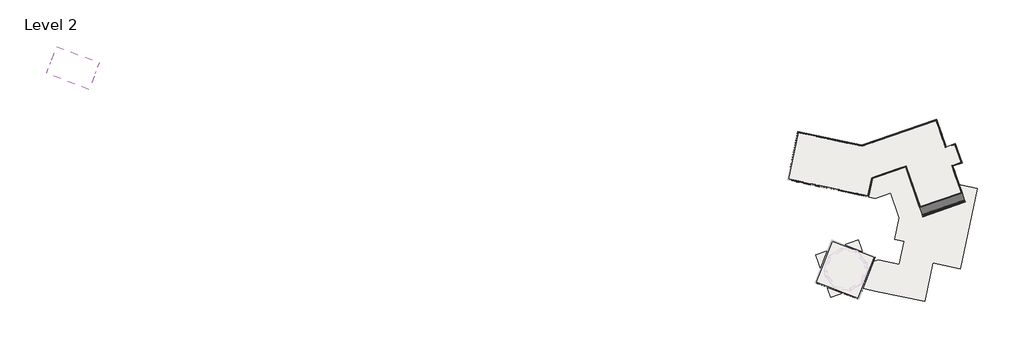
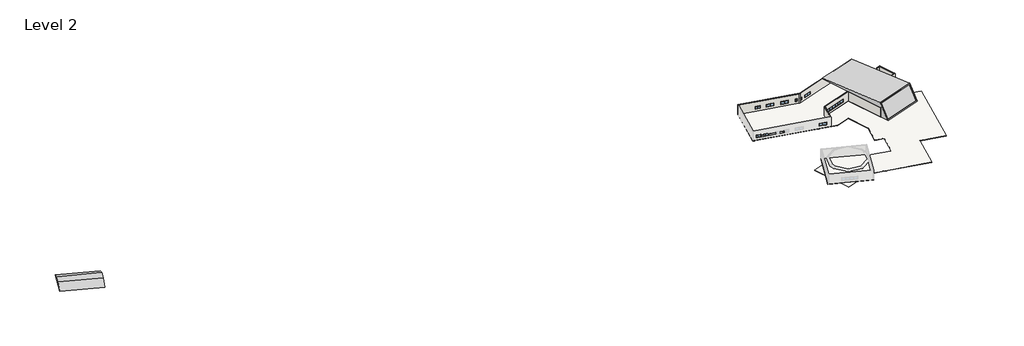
# One storey, part 2 of 2: 17 windows, 11 walls, 3 proxies, 2 slabs, 1 furniture element.
"""IFC4 building model written with IfcOpenShell, lengths in millimetres."""

import ifcopenshell
import ifcopenshell.guid

model = None  # the IFC model being written
_history = None  # IfcOwnerHistory: only IFC2X3 demands one
_inside = {}  # id of a spatial element -> (the spatial element, [elements in it])
_under = {}  # id of a project, library or spatial element -> (it, [spatial elements below it])
_declared = {}  # id of a project -> (the project, [libraries it declares])
_typed = {}  # id of a type object -> (the type object, [elements of that type])
_made_of = {}  # id of a material, layer set ... -> (it, [elements and type objects made of it])


def new_model(schema):
    """Start an empty IFC model of exactly this schema.

    Asked for "IFC4X3", IfcOpenShell would pick the latest addendum, in which some entities
    have other attributes; the version numbers below select the first issue.
    IFC2X3 requires an IfcOwnerHistory on every rooted entity: one is made here for all.
    """
    global model, _history
    if schema == "IFC4X3":
        model = ifcopenshell.file(schema_version=(4, 3, 0, 0))
    else:
        model = ifcopenshell.file(schema=schema)
    _inside.clear()
    _under.clear()
    _declared.clear()
    _typed.clear()
    _made_of.clear()
    _history = None
    if model.schema == "IFC2X3":
        org = make("IfcOrganization", Name="unknown")
        user = make(
            "IfcPersonAndOrganization",
            ThePerson=make("IfcPerson", FamilyName="unknown"),
            TheOrganization=org,
        )
        app = make(
            "IfcApplication",
            ApplicationDeveloper=org,
            Version="unknown",
            ApplicationFullName="unknown",
            ApplicationIdentifier="unknown",
        )
        _history = make(
            "IfcOwnerHistory",
            OwningUser=user,
            OwningApplication=app,
            ChangeAction="ADDED",
            CreationDate=0,
        )
    return model


def make(cls, **values):
    """One entity of the class cls with the attributes given. An attribute that is None is left unset."""
    return model.create_entity(
        cls, **{name: value for name, value in values.items() if value is not None}
    )


def rooted(cls, **values):
    """An entity with a GlobalId (a new one), such as an element, a storey or a relation."""
    return make(cls, GlobalId=ifcopenshell.guid.new(), OwnerHistory=_history, **values)


def si_unit(unit_type, name, prefix=None):
    """IfcSIUnit, for example si_unit("LENGTHUNIT", "METRE", prefix="MILLI")."""
    return make("IfcSIUnit", UnitType=unit_type, Prefix=prefix, Name=name)


def assignment(units):
    """IfcUnitAssignment: the units of a project."""
    return None if units is None else make("IfcUnitAssignment", Units=units)


def point(xyz):
    """IfcCartesianPoint."""
    return None if xyz is None else make("IfcCartesianPoint", Coordinates=xyz)


def direction(xyz):
    """IfcDirection."""
    return None if xyz is None else make("IfcDirection", DirectionRatios=xyz)


def frame(location, z_axis=None, x_axis=None):
    """IfcAxis2Placement3D, a coordinate frame: its origin and axes. An axis left out is left unset."""
    return make(
        "IfcAxis2Placement3D",
        Location=point(location),
        Axis=direction(z_axis),
        RefDirection=direction(x_axis),
    )


def origin():
    """The frame at (0, 0, 0) with its axes left unset."""
    return frame((0.0, 0.0, 0.0))


def place(relative_to, where):
    """IfcLocalPlacement: puts the frame where relative to a parent placement (None: the world)."""
    return make(
        "IfcLocalPlacement", PlacementRelTo=relative_to, RelativePlacement=where
    )


def context(
    kind, dimensions, precision=None, world=None, true_north=None, identifier=None
):
    """IfcGeometricRepresentationContext, for example the 3D "Model" context."""
    return make(
        "IfcGeometricRepresentationContext",
        ContextIdentifier=identifier,
        ContextType=kind,
        CoordinateSpaceDimension=dimensions,
        Precision=precision,
        WorldCoordinateSystem=world,
        TrueNorth=true_north,
    )


def project(units=None, contexts=None):
    """IfcProject with its units and contexts."""
    return rooted(
        "IfcProject",
        Name="project",
        RepresentationContexts=contexts,
        UnitsInContext=assignment(units),
    )


def spatial(cls, under=None, at=None, **own):
    """A site, building, storey or space (cls), placed at a placement, below another one or the project."""
    s = rooted(cls, ObjectPlacement=at, **own)
    if under is not None:
        _under.setdefault(under.id(), (under, []))[1].append(s)
    return s


def polyline(points):
    """IfcPolyline through the points."""
    return make("IfcPolyline", Points=[point(p) for p in points])


def outline(outer, holes=None, kind="AREA"):
    """IfcArbitraryClosedProfileDef: a profile drawn as a closed curve; with holes, ...WithVoids."""
    if holes is None:
        return make("IfcArbitraryClosedProfileDef", ProfileType=kind, OuterCurve=outer)
    return make(
        "IfcArbitraryProfileDefWithVoids",
        ProfileType=kind,
        OuterCurve=outer,
        InnerCurves=holes,
    )


def extrude(swept, where, along, depth):
    """IfcExtrudedAreaSolid: the profile swept, set in the frame where, extruded along a direction by depth."""
    return make(
        "IfcExtrudedAreaSolid",
        SweptArea=swept,
        Position=where,
        ExtrudedDirection=direction(along),
        Depth=depth,
    )


def faces_of(points, faces, orient=None, outer=None):
    """IfcFace entities. A face is a list of loops; a loop is a list of indices into points, from 0.

    orient and outer hold one flag for each loop. By default every Orientation is true, the
    first loop of a face is its IfcFaceOuterBound and the others are IfcFaceBound.
    """
    made = []
    for i, loops in enumerate(faces):
        bounds = []
        for j, loop in enumerate(loops):
            is_outer = j == 0 if outer is None else outer[i][j]
            bounds.append(
                make(
                    "IfcFaceOuterBound" if is_outer else "IfcFaceBound",
                    Bound=make("IfcPolyLoop", Polygon=[points[k] for k in loop]),
                    Orientation=True if orient is None else orient[i][j],
                )
            )
        made.append(make("IfcFace", Bounds=bounds))
    return made


def faceted_brep(points, faces, orient=None, outer=None, voids=None):
    """IfcFacetedBrep: a solid bounded by flat faces; with voids (closed shells), ...WithVoids."""
    shared = [point(p) for p in points]
    hull = make("IfcClosedShell", CfsFaces=faces_of(shared, faces, orient, outer))
    if voids is None:
        return make("IfcFacetedBrep", Outer=hull)
    return make(
        "IfcFacetedBrepWithVoids",
        Outer=hull,
        Voids=[
            make(cls, CfsFaces=faces_of(shared, fs, o, b)) for cls, fs, o, b in voids
        ],
    )


def shape(context_of_items, identifier, shape_type, items):
    """IfcShapeRepresentation: the items that make up one representation, for example the "Body"."""
    return make(
        "IfcShapeRepresentation",
        ContextOfItems=context_of_items,
        RepresentationIdentifier=identifier,
        RepresentationType=shape_type,
        Items=items,
    )


def source(mapping_origin, context_of_items, identifier, shape_type, items):
    """IfcRepresentationMap: a shape defined once, which mapped items show again and again."""
    return make(
        "IfcRepresentationMap",
        MappingOrigin=mapping_origin,
        MappedRepresentation=shape(context_of_items, identifier, shape_type, items),
    )


def transform(
    local_origin,
    x_axis=None,
    y_axis=None,
    z_axis=None,
    scale=None,
    scale2=None,
    scale3=None,
    uniform=True,
):
    """IfcCartesianTransformationOperator3D, or its non-uniform kind. x_axis, y_axis, z_axis: its Axis1, 2, 3."""
    if uniform:
        return make(
            "IfcCartesianTransformationOperator3D",
            Axis1=direction(x_axis),
            Axis2=direction(y_axis),
            LocalOrigin=point(local_origin),
            Scale=scale,
            Axis3=direction(z_axis),
        )
    return make(
        "IfcCartesianTransformationOperator3DnonUniform",
        Axis1=direction(x_axis),
        Axis2=direction(y_axis),
        LocalOrigin=point(local_origin),
        Scale=scale,
        Axis3=direction(z_axis),
        Scale2=scale2,
        Scale3=scale3,
    )


def mapped(mapping_source, mapping_target):
    """IfcMappedItem: shows the shape of a source again, moved by a transform."""
    return make(
        "IfcMappedItem", MappingSource=mapping_source, MappingTarget=mapping_target
    )


def made_of(thing, what):
    """Note that an element or type object is made of a material, layer set ...; save() writes the relation."""
    if what is not None:
        _made_of.setdefault(what.id(), (what, []))[1].append(thing)
    return thing


def element(
    cls,
    number,
    at=None,
    inside=None,
    cuts=None,
    type_object=None,
    material=None,
    context=None,
    identifier="Body",
    shape_type=None,
    held_by="IfcProductDefinitionShape",
    body=None,
    shapes=None,
    **own,
):
    """One element of the class cls, such as IfcWall. Its Tag is "e" and its number.

    at: its placement. inside: the storey or other place that contains it. cuts: it is an
    opening in that element (IfcRelVoidsElement). A single representation is given by context,
    identifier, shape_type and body (its items); several are given by shapes. held_by: the class
    of the entity that holds the representations. save() writes the other relations.
    """
    e = rooted(cls, Tag="e%d" % number, ObjectPlacement=at, **own)
    if body is not None:
        shapes = [shape(context, identifier, shape_type, body)]
    if shapes is not None:
        e.Representation = make(held_by, Representations=shapes)
    if inside is not None:
        _inside.setdefault(inside.id(), (inside, []))[1].append(e)
    if cuts is not None:
        rooted(
            "IfcRelVoidsElement", RelatingBuildingElement=cuts, RelatedOpeningElement=e
        )
    if type_object is not None:
        _typed.setdefault(type_object.id(), (type_object, []))[1].append(e)
    return made_of(e, material)


def aggregate(whole, parts):
    """IfcRelAggregates: a whole, such as a stair, and the parts it consists of."""
    return rooted("IfcRelAggregates", RelatingObject=whole, RelatedObjects=parts)


def save(model, path):
    """Write the relations noted so far, then the file.

    IfcRelAggregates (storeys below a building ...), IfcRelContainedInSpatialStructure (elements
    in a storey), IfcRelDefinesByType, IfcRelAssociatesMaterial and IfcRelDeclares: one each for
    every whole, place, type object, material and project.
    """
    for whole, parts in _under.values():
        aggregate(whole, parts)
    for where, things in _inside.values():
        rooted(
            "IfcRelContainedInSpatialStructure",
            RelatedElements=things,
            RelatingStructure=where,
        )
    for kind, things in _typed.values():
        rooted("IfcRelDefinesByType", RelatedObjects=things, RelatingType=kind)
    for what, things in _made_of.values():
        rooted("IfcRelAssociatesMaterial", RelatedObjects=things, RelatingMaterial=what)
    for by, libraries in _declared.values():
        rooted("IfcRelDeclares", RelatingContext=by, RelatedDefinitions=libraries)
    model.write(path)


def generic_models_17_generic_models_17_c1b150cb(model_context):
    return source(origin(), model_context, "Body", "SweptSolid", [
        extrude(outline(polyline([(0.0, 0.0), (12364.8102213, -25351.6178972), (12237.7943953, -25424.9505185), (-1980.980723, -797.3095922), (-5618.2874188, -2897.3095922), (-7291.0498918, -1e-07), (0.0, 0.0)])), frame((493903.9346162, 7538.6153477, 10364.2344266), z_axis=(0.9452094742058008, 0.32646446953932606, 0.0), x_axis=(-0.16323223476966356, 0.47260473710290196, 0.8660254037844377)), (0.0, 0.0, 1.0), 16386.8897791),
    ])


def generic_models_21_generic_models_21_878e7001(model_context):
    return source(origin(), model_context, "Body", "SweptSolid", [
        extrude(outline(polyline([(457394.4949864, 14867.6828092), (455927.2735853, 15179.5503454), (455951.4809881, 15293.4372216), (457418.7023892, 14981.5696854), (457394.4949864, 14867.6828092)])), frame((0.0, 0.0, 5241.1911697), z_axis=(0.0, 0.0, 1.0), x_axis=(1.0, 0.0, 0.0)), (0.0, 0.0, 1.0), 700.0),
        extrude(outline(polyline([(449708.6023988, 16501.369711), (448708.8903539, 16713.8650659), (448733.0977567, 16827.7519421), (449732.8098017, 16615.2565871), (449708.6023988, 16501.369711)])), frame((0.0, 0.0, 5241.1911697), z_axis=(0.0, 0.0, 1.0), x_axis=(1.0, 0.0, 0.0)), (0.0, 0.0, 1.0), 700.0),
        extrude(outline(polyline([(454138.437253, 15559.7792456), (451497.4387311, 16121.1408108), (451521.6461339, 16235.027687), (454162.6446559, 15673.6661218), (454138.437253, 15559.7792456)])), frame((0.0, 0.0, 5241.1911697), z_axis=(0.0, 0.0, 1.0), x_axis=(1.0, 0.0, 0.0)), (0.0, 0.0, 1.0), 700.0),
    ])


def generic_models_22_generic_models_22_ceb32bb1(model_context):
    return source(origin(), model_context, "Body", "SweptSolid", [
        extrude(outline(polyline([(-12364.8102213, -1e-07), (-12364.8102213, -16386.8897792), (-19655.8601132, -16386.8897791), (-19655.8601131, 0.0), (-12364.8102213, -1e-07)]), holes=[polyline([(-12764.8102213, -15986.8897792), (-12764.8102213, -400.0000001), (-19255.8601131, -400.0000001), (-19255.8601131, -15986.8897792), (-12764.8102213, -15986.8897792)])]), frame((491885.5990112, 13382.2832317, 21072.4741912), z_axis=(0.28272652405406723, -0.8185754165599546, 0.5000000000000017), x_axis=(-0.16323223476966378, 0.47260473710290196, 0.8660254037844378)), (0.0, 0.0, 1.0), 250.0),
    ])


def furniture_2_furniture_1_e683d8f9(model_context):
    return source(origin(), model_context, "Body", "SweptSolid", [
        extrude(outline(polyline([(1042.1492263, 0.0), (4452.8032056, 0.0), (8022.8990941, -1741.2521091), (-2527.9466623, -1741.2521091), (1042.1492263, 0.0)])), frame((465856.9883716, -24025.7203411, 9620.8401372), z_axis=(0.35491188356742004, 0.9348997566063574, 0.0), x_axis=(-0.9348997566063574, 0.35491188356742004, 0.0)), (0.0, 0.0, 1.0), 16606.4305029),
    ])


def aluminum_exterior_window_2_wide_3886_1d34d12d(model_context):
    return source(origin(), model_context, "Body", "SweptSolid", [
        extrude(outline(polyline([(153.8, 106.7075246), (1577.6, 106.7075246), (1577.6, 81.3075246), (153.8, 81.3075246), (153.8, 106.7075246)])), frame((0.0, 0.0, 1066.8), z_axis=(0.0, 0.0, 1.0), x_axis=(1.0, 0.0, 0.0)), (0.0, 0.0, 1.0), 1117.6),
        extrude(outline(polyline([(-1320.8, 106.7075246), (103.0, 106.7075246), (103.0, 81.3075246), (-1320.8, 81.3075246), (-1320.8, 106.7075246)])), frame((0.0, 0.0, 1066.8), z_axis=(0.0, 0.0, 1.0), x_axis=(1.0, 0.0, 0.0)), (0.0, 0.0, 1.0), 1117.6),
        extrude(outline(polyline([(2235.2, -1371.6), (1016.0, -1371.6), (1016.0, 1628.4), (2235.2, 1628.4), (2235.2, -1371.6)]), holes=[polyline([(2184.4, 153.8), (2184.4, 1577.6), (1066.8, 1577.6), (1066.8, 153.8), (2184.4, 153.8)]), polyline([(2184.4, -1320.8), (2184.4, 103.0), (1066.8, 103.0), (1066.8, -1320.8), (2184.4, -1320.8)])]), frame((0.0, 36.8575246, 0.0), z_axis=(0.0, 1.0, 0.0), x_axis=(0.0, 0.0, 1.0)), (0.0, 0.0, 1.0), 114.3),
    ])


def aluminum_exterior_window_2_wide_3886_5f28be50(model_context):
    return source(origin(), model_context, "Body", "SweptSolid", [
        extrude(outline(polyline([(-431.8, 106.7075246), (406.4, 106.7075246), (406.4, 81.3075246), (-431.8, 81.3075246), (-431.8, 106.7075246)])), frame((0.0, 0.0, 1066.8), z_axis=(0.0, 0.0, 1.0), x_axis=(1.0, 0.0, 0.0)), (0.0, 0.0, 1.0), 1117.6),
        extrude(outline(polyline([(-1320.8, 106.7075246), (-482.6, 106.7075246), (-482.6, 81.3075246), (-1320.8, 81.3075246), (-1320.8, 106.7075246)])), frame((0.0, 0.0, 1066.8), z_axis=(0.0, 0.0, 1.0), x_axis=(1.0, 0.0, 0.0)), (0.0, 0.0, 1.0), 1117.6),
        extrude(outline(polyline([(2235.2, -1371.6), (1016.0, -1371.6), (1016.0, 457.2), (2235.2, 457.2), (2235.2, -1371.6)]), holes=[polyline([(2184.4, -431.8), (2184.4, 406.4), (1066.8, 406.4), (1066.8, -431.8), (2184.4, -431.8)]), polyline([(2184.4, -1320.8), (2184.4, -482.6), (1066.8, -482.6), (1066.8, -1320.8), (2184.4, -1320.8)])]), frame((0.0, 36.8575246, 0.0), z_axis=(0.0, 1.0, 0.0), x_axis=(0.0, 0.0, 1.0)), (0.0, 0.0, 1.0), 114.3),
    ])


def aluminum_exterior_window_2_wide_3886_f8047025(model_context):
    return source(origin(), model_context, "Body", "SweptSolid", [
        extrude(outline(polyline([(-996.2, 106.7075246), (-722.4, 106.7075246), (-722.4, 81.3075246), (-996.2, 81.3075246), (-996.2, 106.7075246)])), frame((0.0, 0.0, 1066.8), z_axis=(0.0, 0.0, 1.0), x_axis=(1.0, 0.0, 0.0)), (0.0, 0.0, 1.0), 1117.6),
        extrude(outline(polyline([(-1320.8, 106.7075246), (-1047.0, 106.7075246), (-1047.0, 81.3075246), (-1320.8, 81.3075246), (-1320.8, 106.7075246)])), frame((0.0, 0.0, 1066.8), z_axis=(0.0, 0.0, 1.0), x_axis=(1.0, 0.0, 0.0)), (0.0, 0.0, 1.0), 1117.6),
        extrude(outline(polyline([(2235.2, -1371.6), (1016.0, -1371.6), (1016.0, -671.6), (2235.2, -671.6), (2235.2, -1371.6)]), holes=[polyline([(2184.4, -996.2), (2184.4, -722.4), (1066.8, -722.4), (1066.8, -996.2), (2184.4, -996.2)]), polyline([(2184.4, -1320.8), (2184.4, -1047.0), (1066.8, -1047.0), (1066.8, -1320.8), (2184.4, -1320.8)])]), frame((0.0, 36.8575246, 0.0), z_axis=(0.0, 1.0, 0.0), x_axis=(0.0, 0.0, 1.0)), (0.0, 0.0, 1.0), 114.3),
    ])


model = new_model("IFC4")

# Units and contexts
model_context = context("Model", 3, world=origin())
ifc_project = project(units=[si_unit("LENGTHUNIT", "METRE", prefix="MILLI")], contexts=[model_context])

# Site, building, storey
site = spatial("IfcSite", under=ifc_project)
building = spatial("IfcBuilding", under=site)
storey = spatial("IfcBuildingStorey", under=building, Name="Level 2", Elevation=4050.0)

# Proxies
placement = place(None, origin())
generic_models_17_generic_models_17_shape = generic_models_17_generic_models_17_c1b150cb(model_context)
element("IfcBuildingElementProxy", 1, Name="Generic Models 17 : Generic Models 17", ObjectType="Generic Models 17 : Generic Models 17", at=placement, inside=storey, context=model_context, shape_type="MappedRepresentation", body=[
    mapped(generic_models_17_generic_models_17_shape, transform((0.0, 0.0, 0.0), x_axis=(1.0, 0.0, 0.0), y_axis=(0.0, 1.0, 0.0), z_axis=(0.0, 0.0, 1.0))),
])
generic_models_21_generic_models_21_shape = generic_models_21_generic_models_21_878e7001(model_context)
element("IfcBuildingElementProxy", 2, Name="Generic Models 21 : Generic Models 21", ObjectType="Generic Models 21 : Generic Models 21", at=placement, inside=storey, context=model_context, shape_type="MappedRepresentation", body=[
    mapped(generic_models_21_generic_models_21_shape, transform((0.0, 0.0, 0.0), x_axis=(1.0, 0.0, 0.0), y_axis=(0.0, 1.0, 0.0), z_axis=(0.0, 0.0, 1.0))),
])
generic_models_22_generic_models_22_shape = generic_models_22_generic_models_22_ceb32bb1(model_context)
element("IfcBuildingElementProxy", 3, Name="Generic Models 22 : Generic Models 22", ObjectType="Generic Models 22 : Generic Models 22", at=placement, inside=storey, context=model_context, shape_type="MappedRepresentation", body=[
    mapped(generic_models_22_generic_models_22_shape, transform((0.0, 0.0, 0.0), x_axis=(1.0, 0.0, 0.0), y_axis=(0.0, 1.0, 0.0), z_axis=(0.0, 0.0, 1.0))),
])

# Furniture
furniture_2_furniture_1_shape = furniture_2_furniture_1_e683d8f9(model_context)
element("IfcFurniture", 4, ObjectType="Furniture 2 : Furniture 1", at=placement, inside=storey, context=model_context, shape_type="MappedRepresentation", body=[
    mapped(furniture_2_furniture_1_shape, transform((199184.1500402, 524685.7657192, 0.0), x_axis=(0.0, -1.0, 0.0), y_axis=(1.0, 0.0, 0.0), z_axis=(0.0, 0.0, 1.0))),
])

# Slabs
element("IfcSlab", 5, ObjectType="Generic 150mm", at=placement, inside=storey, context=model_context, shape_type="SweptSolid", body=[
    extrude(outline(polyline([(496194.9910677, 38206.747973), (503336.7536813, 17804.1142221), (505534.6529907, 16248.6559358), (515110.2132954, 14213.3077614), (508872.8625709, -15131.1202607), (498749.0349033, -12979.2342607), (495729.3323996, -27185.8175811), (477933.5726812, -23403.212083), (477933.8658406, -23402.486488), (471628.0595421, -22062.1459826), (461371.3126496, -25604.7082662), (455989.830963, -10023.7555132), (471522.9002228, -4658.8122338), (474530.366054, -13366.299456), (478874.7788643, -11865.7892916), (486494.6851509, -13485.4503721), (488251.0783713, -5222.2699432), (484762.4328024, -4480.7354362), (486449.9905894, 3458.5997401), (483279.883946, 12636.9793593), (477629.912649, 10685.5443254), (470024.8423404, 12302.0519214), (470544.6215674, 14747.4209232), (460186.6997171, 16949.0651778), (459666.92049, 14503.696176), (445583.1164203, 17497.3011443), (449326.0390852, 35106.3678112), (472782.8584723, 30120.4669346), (496194.9910677, 38206.747973)])), frame((0.0, 0.0, 3900.0), z_axis=(0.0, 0.0, 1.0), x_axis=(1.0, 0.0, 0.0)), (0.0, 0.0, 1.0), 150.0),
])
element("IfcSlab", 6, ObjectType="Generic 150mm", at=placement, inside=storey, context=model_context, shape_type="SweptSolid", body=[
    extrude(outline(polyline([(503641.3046621, 29541.1180028), (507043.8413761, 30716.3150081), (509503.3066745, 23612.4712386), (506095.517135, 22435.4599679), (509490.917429, 12604.7897846), (493979.6883487, 7247.3898518), (488826.0824548, 22159.1794744), (476612.6911512, 17940.8147393), (475181.1706944, 11206.0404956), (445583.1164203, 17497.3011443), (449326.0390852, 35106.3678112), (472782.8584723, 30120.4669346), (500173.666852, 39580.9367796), (503641.3046621, 29541.1180028)])), frame((0.0, 0.0, 3900.0), z_axis=(0.0, 0.0, 1.0), x_axis=(1.0, 0.0, 0.0)), (0.0, 0.0, 1.0), 150.0),
    extrude(outline(polyline([(477672.6234578, -10748.4453058), (471616.3744343, -26311.9729939), (455680.6882376, -20262.378517), (461687.6475622, -4680.1391973), (477672.6234578, -10748.4453058)])), frame((0.0, 0.0, 3900.0), z_axis=(0.0, 0.0, 1.0), x_axis=(1.0, 0.0, 0.0)), (0.0, 0.0, 1.0), 150.0),
])

# Walls
element("IfcWall", 7, ObjectType="0.3", at=placement, inside=storey, context=model_context, shape_type="Brep", body=[
    faceted_brep([(509392.9780882, 12888.3526269, 4050.0), (509109.4152459, 12790.413286, 4050.0), (494165.2567212, 7628.872994, 4050.0), (493881.6938736, 7530.9336513, 4050.0), (493881.6938736, 7530.9336513, 8250.0), (494023.4752974, 7579.9033227, 8250.0), (494165.2567212, 7628.872994, 8250.0), (509109.4152459, 12790.413286, 8250.0), (509251.1966671, 12839.3829564, 8250.0), (509392.9780882, 12888.3526269, 8250.0), (509490.917429, 12604.7897846, 4050.0), (509490.917429, 12604.7897846, 8250.0), (509349.1360079, 12555.8201142, 8250.0), (494121.4697725, 7296.3595231, 8250.0), (493979.6883487, 7247.3898518, 8250.0), (493979.6883487, 7247.3898518, 4050.0), (509441.9477586, 12746.5712057, 8250.0), (493930.6911111, 7389.1617515, 8250.0), (509300.1663375, 12697.6015353, 8250.0), (494072.4725349, 7438.1314229, 8250.0)], [[[0, 1, 2, 3, 4, 5, 6, 7, 8, 9]], [[10, 11, 12, 13, 14, 15]], [[3, 2, 1, 0, 10, 15]], [[0, 9, 16, 11, 10]], [[4, 3, 15, 14, 17]], [[9, 8, 18, 16]], [[18, 12, 11, 16]], [[5, 4, 17, 19]], [[13, 12, 18, 19]], [[17, 14, 13, 19]], [[8, 7, 6, 5, 19, 18]]]),
])
element("IfcWall", 8, ObjectType="0.3", at=placement, inside=storey, context=model_context, shape_type="Brep", body=[
    faceted_brep([(505714.0149519, 22621.0834693, 4050.0), (509109.4152459, 12790.413286, 4050.0), (509109.4152459, 12790.413286, 8250.0), (505762.9846223, 22479.3020482, 8250.0), (505714.0149519, 22621.0834693, 8250.0), (505844.6007397, 22242.9996797, 6285.2), (506441.6389616, 20514.4005932, 6285.2), (506441.6389616, 20514.4005932, 5066.0), (505844.6007397, 22242.9996797, 5066.0), (507029.2750068, 18813.0235397, 6285.2), (507626.3132287, 17084.4244532, 6285.2), (507626.3132287, 17084.4244532, 5066.0), (507029.2750068, 18813.0235397, 5066.0), (505997.5777942, 22719.0228102, 4050.0), (505997.5777942, 22719.0228102, 8250.0), (506046.5474646, 22577.2413891, 8250.0), (506095.517135, 22435.4599679, 8250.0), (509392.9780882, 12888.3526269, 8250.0), (509392.9780882, 12888.3526269, 4050.0), (506095.517135, 22435.4599679, 4050.0), (506128.163582, 22340.9390205, 6285.2), (506128.163582, 22340.9390205, 5066.0), (506725.2018039, 20612.3399341, 5066.0), (506725.2018039, 20612.3399341, 6285.2), (507312.8378491, 18910.9628805, 6285.2), (507312.8378491, 18910.9628805, 5066.0), (507909.8760709, 17182.3637941, 5066.0), (507909.8760709, 17182.3637941, 6285.2), (509251.1966671, 12839.3829564, 8250.0), (505904.7660435, 22528.2717186, 8250.0)], [[[0, 1, 2, 3, 4], [5, 6, 7, 8], [9, 10, 11, 12]], [[13, 14, 15, 16, 17, 18, 19], [20, 21, 22, 23], [24, 25, 26, 27]], [[1, 0, 13, 19, 18]], [[2, 1, 18, 17, 28]], [[0, 4, 14, 13]], [[28, 17, 16, 15, 29]], [[15, 14, 4, 3, 2, 28, 29]], [[21, 20, 5, 8]], [[22, 21, 8, 7]], [[23, 22, 7, 6]], [[20, 23, 6, 5]], [[25, 24, 9, 12]], [[26, 25, 12, 11]], [[27, 26, 11, 10]], [[24, 27, 10, 9]]]),
])
element("IfcWall", 9, ObjectType="0.3", at=placement, inside=storey, context=model_context, shape_type="Brep", body=[
    faceted_brep([(505676.8108045, 29926.7684253, 4050.0), (506858.4274198, 30334.8851994, 4050.0), (507141.9903395, 30432.824567, 4050.0), (507141.9903395, 30432.824567, 8250.0), (507000.2088797, 30383.8548832, 8250.0), (506858.4274198, 30334.8851994, 8250.0), (505676.8108045, 29926.7684253, 8250.0), (505578.8714636, 30210.3312675, 4050.0), (505578.8714636, 30210.3312675, 8250.0), (506902.0599163, 30667.3453243, 8250.0), (507043.8413761, 30716.3150081, 8250.0), (507043.8413761, 30716.3150081, 4050.0), (505627.8411341, 30068.5498464, 8250.0), (507092.9158578, 30574.5697876, 8250.0), (506951.134398, 30525.6001037, 8250.0)], [[[0, 1, 2, 3, 4, 5, 6]], [[7, 8, 9, 10, 11]], [[2, 1, 0, 7, 11]], [[0, 6, 12, 8, 7]], [[3, 2, 11, 10, 13]], [[4, 3, 13, 14]], [[9, 8, 12, 14]], [[13, 10, 9, 14]], [[6, 5, 4, 14, 12]]]),
])
element("IfcWall", 10, ObjectType="0.3", at=placement, inside=storey, context=model_context, shape_type="Brep", body=[
    faceted_brep([(499890.1040098, 39482.9974388, 4050.0), (499988.0433506, 39199.4345965, 4050.0), (503406.7114903, 29301.3972408, 4050.0), (503406.7114903, 29301.3972408, 8250.0), (499988.0433506, 39199.4345965, 8250.0), (499939.0736802, 39341.2160176, 8250.0), (499890.1040098, 39482.9974388, 8250.0), (501683.3708485, 34290.9690133, 6285.2), (502280.4090704, 32562.3699268, 6285.2), (502280.4090704, 32562.3699268, 5066.0), (501683.3708485, 34290.9690133, 5066.0), (500281.8613732, 38348.7460697, 6285.2), (500878.8995951, 36620.1469833, 6285.2), (500878.8995951, 36620.1469833, 5066.0), (500281.8613732, 38348.7460697, 5066.0), (502695.4107041, 31360.8196432, 6285.2), (503292.448926, 29632.2205568, 6285.2), (503292.448926, 29632.2205568, 5066.0), (502695.4107041, 31360.8196432, 5066.0), (500173.666852, 39580.9367796, 4050.0), (500173.666852, 39580.9367796, 8250.0), (500222.6365225, 39439.1553585, 8250.0), (503690.2743326, 29399.3365817, 8250.0), (503690.2743326, 29399.3365817, 4050.0), (501966.9336908, 34388.9083541, 6285.2), (501966.9336908, 34388.9083541, 5066.0), (502563.9719127, 32660.3092677, 5066.0), (502563.9719127, 32660.3092677, 6285.2), (500565.4242155, 38446.6854106, 6285.2), (500565.4242155, 38446.6854106, 5066.0), (501162.4624374, 36718.0863241, 5066.0), (501162.4624374, 36718.0863241, 6285.2), (502978.9735463, 31458.7589841, 6285.2), (502978.9735463, 31458.7589841, 5066.0), (503576.0117682, 29730.1598977, 5066.0), (503576.0117682, 29730.1598977, 6285.2), (503548.4929114, 29350.3669113, 8250.0), (500031.8854309, 39531.9671092, 8250.0), (500080.8551013, 39390.1856881, 8250.0)], [[[0, 1, 2, 3, 4, 5, 6], [7, 8, 9, 10], [11, 12, 13, 14], [15, 16, 17, 18]], [[19, 20, 21, 22, 23], [24, 25, 26, 27], [28, 29, 30, 31], [32, 33, 34, 35]], [[2, 1, 0, 19, 23]], [[3, 2, 23, 22, 36]], [[0, 6, 37, 20, 19]], [[6, 5, 38, 37]], [[36, 22, 21, 38]], [[21, 20, 37, 38]], [[5, 4, 3, 36, 38]], [[25, 24, 7, 10]], [[26, 25, 10, 9]], [[27, 26, 9, 8]], [[24, 27, 8, 7]], [[29, 28, 11, 14]], [[30, 29, 14, 13]], [[31, 30, 13, 12]], [[28, 31, 12, 11]], [[33, 32, 15, 18]], [[34, 33, 18, 17]], [[35, 34, 17, 16]], [[32, 35, 16, 15]]]),
])
element("IfcWall", 11, ObjectType="0.3", at=placement, inside=storey, context=model_context, shape_type="Brep", body=[
    faceted_brep([(472802.0140944, 29809.693103, 4050.0), (499988.0433506, 39199.4345965, 4050.0), (499988.0433506, 39199.4345965, 8250.0), (473076.8639022, 29904.6230621, 8250.0), (472802.0140944, 29809.693103, 8250.0), (475318.0760739, 30678.7119415, 6285.2), (478153.7044965, 31658.1053501, 6285.2), (478153.7044965, 31658.1053501, 5066.0), (475318.0760739, 30678.7119415, 5066.0), (472955.0523883, 29862.5507677, 6285.2), (473616.6990203, 30091.0758963, 6285.2), (473616.6990203, 30091.0758963, 5066.0), (472955.0523883, 29862.5507677, 5066.0), (472233.1588566, 29930.6070164, 4050.0), (472233.1588566, 29930.6070164, 8250.0), (472508.0086644, 30025.5369755, 8250.0), (472782.8584723, 30120.4669346, 8250.0), (499890.1040098, 39482.9974388, 8250.0), (499890.1040098, 39482.9974388, 4050.0), (472782.8584723, 30120.4669346, 4050.0), (475220.136733, 30962.2747838, 6285.2), (475220.136733, 30962.2747838, 5066.0), (478055.7651556, 31941.6681924, 5066.0), (478055.7651556, 31941.6681924, 6285.2), (472857.1130475, 30146.1136099, 6285.2), (472857.1130475, 30146.1136099, 5066.0), (473518.7596794, 30374.6387386, 5066.0), (473518.7596794, 30374.6387386, 6285.2), (499939.0736802, 39341.2160176, 8250.0), (472792.4362833, 29965.0800188, 8250.0)], [[[0, 1, 2, 3, 4], [5, 6, 7, 8], [9, 10, 11, 12]], [[13, 14, 15, 16, 17, 18, 19], [20, 21, 22, 23], [24, 25, 26, 27]], [[1, 0, 13, 19, 18]], [[2, 1, 18, 17, 28]], [[0, 4, 14, 13]], [[28, 17, 16, 15, 29]], [[15, 14, 4, 3, 2, 28, 29]], [[21, 20, 5, 8]], [[22, 21, 8, 7]], [[23, 22, 7, 6]], [[20, 23, 6, 5]], [[25, 24, 9, 12]], [[26, 25, 12, 11]], [[27, 26, 11, 10]], [[24, 27, 10, 9]]]),
])
element("IfcWall", 12, ObjectType="0.3", at=placement, inside=storey, context=model_context, shape_type="Brep", body=[
    faceted_brep([(449263.665578, 34812.923531, 4050.0), (449557.1098582, 34750.5500237, 4050.0), (472233.1588566, 29930.6070164, 4050.0), (472233.1588566, 29930.6070164, 8250.0), (449557.1098582, 34750.5500237, 8250.0), (449410.3877181, 34781.7367774, 8250.0), (449263.665578, 34812.923531, 8250.0), (455915.069263, 33399.1240334, 6285.2), (457703.9055952, 33018.8951333, 6285.2), (457703.9055952, 33018.8951333, 5066.0), (455915.069263, 33399.1240334, 5066.0), (459953.6450769, 32540.6982444, 6285.2), (462888.0878791, 31916.9631719, 6285.2), (462888.0878791, 31916.9631719, 5066.0), (459953.6450769, 32540.6982444, 5066.0), (465431.271641, 31376.3927758, 6285.2), (468365.7144432, 30752.6577034, 6285.2), (468365.7144432, 30752.6577034, 5066.0), (465431.271641, 31376.3927758, 5066.0), (471006.7129652, 30191.2961381, 6285.2), (471691.4162857, 30045.7579546, 6285.2), (471691.4162857, 30045.7579546, 5066.0), (471006.7129652, 30191.2961381, 5066.0), (449326.0390852, 35106.3678112, 4050.0), (449326.0390852, 35106.3678112, 8250.0), (449472.7612254, 35075.1810576, 8250.0), (472782.8584723, 30120.4669346, 8250.0), (472782.8584723, 30120.4669346, 4050.0), (455977.4427702, 33692.5683137, 6285.2), (455977.4427702, 33692.5683137, 5066.0), (457766.2791025, 33312.3394135, 5066.0), (457766.2791025, 33312.3394135, 6285.2), (460016.0185841, 32834.1425246, 6285.2), (460016.0185841, 32834.1425246, 5066.0), (462950.4613863, 32210.4074522, 5066.0), (462950.4613863, 32210.4074522, 6285.2), (465493.6451483, 31669.837056, 6285.2), (465493.6451483, 31669.837056, 5066.0), (468428.0879505, 31046.1019836, 5066.0), (468428.0879505, 31046.1019836, 6285.2), (471069.0864724, 30484.7404184, 6285.2), (471069.0864724, 30484.7404184, 5066.0), (471753.7897929, 30339.2022348, 5066.0), (471753.7897929, 30339.2022348, 6285.2), (449294.8523316, 34959.6456711, 8250.0), (472508.0086644, 30025.5369755, 8250.0), (449441.5744717, 34928.4589175, 8250.0)], [[[0, 1, 2, 3, 4, 5, 6], [7, 8, 9, 10], [11, 12, 13, 14], [15, 16, 17, 18], [19, 20, 21, 22]], [[23, 24, 25, 26, 27], [28, 29, 30, 31], [32, 33, 34, 35], [36, 37, 38, 39], [40, 41, 42, 43]], [[2, 1, 0, 23, 27]], [[0, 6, 44, 24, 23]], [[3, 2, 27, 26, 45]], [[45, 26, 25, 46]], [[6, 5, 46, 44]], [[46, 25, 24, 44]], [[5, 4, 3, 45, 46]], [[29, 28, 7, 10]], [[30, 29, 10, 9]], [[31, 30, 9, 8]], [[28, 31, 8, 7]], [[33, 32, 11, 14]], [[34, 33, 14, 13]], [[35, 34, 13, 12]], [[32, 35, 12, 11]], [[37, 36, 15, 18]], [[38, 37, 18, 17]], [[39, 38, 17, 16]], [[36, 39, 16, 15]], [[41, 40, 19, 22]], [[42, 41, 22, 21]], [[43, 42, 21, 20]], [[40, 43, 20, 19]]]),
])
element("IfcWall", 13, ObjectType="0.3", at=placement, inside=storey, context=model_context, shape_type="Brep", body=[
    faceted_brep([(476354.4970804, 18169.027443, 4050.0), (474950.0999214, 11561.8582831, 4050.0), (474950.0999214, 11561.8582831, 8250.0), (476318.0928167, 17997.758848, 8250.0), (476354.4970804, 18169.027443, 8250.0), (476685.4996786, 18283.3519293, 4050.0), (476685.4996786, 18283.3519293, 8250.0), (476649.0954149, 18112.0833343, 8250.0), (476612.6911512, 17940.8147393, 8250.0), (475243.5442016, 11499.4847759, 8250.0), (475243.5442016, 11499.4847759, 4050.0), (476612.6911512, 17940.8147393, 4050.0), (475096.8220615, 11530.6715295, 8250.0), (476483.5941158, 18054.9210911, 8250.0)], [[[0, 1, 2, 3, 4]], [[5, 6, 7, 8, 9, 10, 11]], [[1, 0, 5, 11, 10]], [[0, 4, 6, 5]], [[2, 1, 10, 9, 12]], [[12, 9, 8, 7, 13]], [[7, 6, 4, 3, 2, 12, 13]]]),
])
element("IfcWall", 14, ObjectType="0.3", at=placement, inside=storey, context=model_context, shape_type="Brep", body=[
    faceted_brep([(489011.6508274, 22540.6626166, 4050.0), (476685.4996786, 18283.3519293, 4050.0), (476685.4996786, 18283.3519293, 8250.0), (488869.8694036, 22491.6929453, 8250.0), (489011.6508274, 22540.6626166, 8250.0), (477634.3067136, 18611.0589549, 5066.0), (486141.1919814, 21549.2391808, 5066.0), (486141.1919814, 21549.2391808, 6285.2), (477634.3067136, 18611.0589549, 6285.2), (476612.6911512, 17940.8147393, 4050.0), (488826.0824548, 22159.1794744, 4050.0), (489109.6453025, 22257.1188171, 4050.0), (489109.6453025, 22257.1188171, 8250.0), (488967.8638786, 22208.1491457, 8250.0), (488826.0824548, 22159.1794744, 8250.0), (476612.6911512, 17940.8147393, 8250.0), (477732.2460544, 18327.4961127, 6285.2), (486239.1313223, 21265.6763385, 6285.2), (486239.1313223, 21265.6763385, 5066.0), (477732.2460544, 18327.4961127, 5066.0), (476649.0954149, 18112.0833343, 8250.0), (488918.8666411, 22349.9210455, 8250.0)], [[[0, 1, 2, 3, 4], [5, 6, 7, 8]], [[9, 10, 11, 12, 13, 14, 15], [16, 17, 18, 19]], [[1, 0, 11, 10, 9]], [[2, 1, 9, 15, 20]], [[0, 4, 12, 11]], [[15, 14, 13, 21, 20]], [[13, 12, 4, 3, 2, 20, 21]], [[18, 17, 7, 6]], [[18, 6, 5, 19]], [[7, 17, 16, 8]], [[19, 5, 8, 16]]]),
])
element("IfcWall", 15, ObjectType="0.3", at=placement, inside=storey, context=model_context, shape_type="Brep", body=[
    faceted_brep([(494165.2567212, 7628.872994, 4050.0), (489109.6453025, 22257.1188171, 4050.0), (489109.6453025, 22257.1188171, 8250.0), (494165.2567212, 7628.872994, 8250.0), (493881.6938736, 7530.9336513, 4050.0), (493881.6938736, 7530.9336513, 8250.0), (488826.0824548, 22159.1794744, 8250.0), (488826.0824548, 22159.1794744, 4050.0), (494023.4752974, 7579.9033227, 8250.0), (488967.8638786, 22208.1491457, 8250.0)], [[[0, 1, 2, 3]], [[4, 5, 6, 7]], [[1, 0, 4, 7]], [[0, 3, 8, 5, 4]], [[2, 1, 7, 6, 9]], [[9, 6, 5, 8]], [[3, 2, 9, 8]]]),
])
element("IfcWall", 16, ObjectType="0.3", at=placement, inside=storey, context=model_context, shape_type="Brep", body=[
    faceted_brep([(509405.1577111, 23895.9616797, 4050.0), (509121.5947913, 23798.022312, 4050.0), (505997.5777942, 22719.0228102, 4050.0), (505997.5777942, 22719.0228102, 8250.0), (509121.5947913, 23798.022312, 8250.0), (509263.3762512, 23846.9919959, 8250.0), (509405.1577111, 23895.9616797, 8250.0), (509503.3066745, 23612.4712386, 4050.0), (509503.3066745, 23612.4712386, 8250.0), (509361.5252146, 23563.5015548, 8250.0), (506095.517135, 22435.4599679, 8250.0), (506095.517135, 22435.4599679, 4050.0), (506046.5474646, 22577.2413891, 8250.0), (509454.2321928, 23754.2164591, 8250.0), (509312.4507329, 23705.2467753, 8250.0)], [[[0, 1, 2, 3, 4, 5, 6]], [[7, 8, 9, 10, 11]], [[2, 1, 0, 7, 11]], [[3, 2, 11, 10, 12]], [[0, 6, 13, 8, 7]], [[12, 10, 9, 14]], [[6, 5, 14, 13]], [[14, 9, 8, 13]], [[5, 4, 3, 12, 14]]]),
])
element("IfcWall", 17, ObjectType="0.3", at=placement, inside=storey, context=model_context, shape_type="Brep", body=[
    faceted_brep([(506858.4274198, 30334.8851994, 4050.0), (509121.5947913, 23798.022312, 4050.0), (509121.5947913, 23798.022312, 8250.0), (506858.4274198, 30334.8851994, 8250.0), (507141.9903395, 30432.824567, 4050.0), (507141.9903395, 30432.824567, 8250.0), (509405.1577111, 23895.9616797, 8250.0), (509405.1577111, 23895.9616797, 4050.0), (507000.2088797, 30383.8548832, 8250.0), (509263.3762512, 23846.9919959, 8250.0)], [[[0, 1, 2, 3]], [[4, 5, 6, 7]], [[1, 0, 4, 7]], [[0, 3, 8, 5, 4]], [[2, 1, 7, 6, 9]], [[9, 6, 5, 8]], [[3, 2, 9, 8]]]),
])

# Windows
aluminum_exterior_window_2_wide_3886_shape = aluminum_exterior_window_2_wide_3886_1d34d12d(model_context)
element("IfcWindow", 18, ObjectType="Aluminum_Exterior_Window_-_2_Wide_3886 : 72\"W. x 48\"H. 2", at=placement, inside=storey, context=model_context, shape_type="MappedRepresentation", body=[
    mapped(aluminum_exterior_window_2_wide_3886_shape, transform((472048.9841139, 11998.0075594, 4050.0), x_axis=(0.9781476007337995, -0.20791169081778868, 0.0), y_axis=(0.20791169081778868, 0.9781476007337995, 0.0), z_axis=(0.0, 0.0, 1.0))),
])
element("IfcWindow", 19, ObjectType="Aluminum_Exterior_Window_-_2_Wide_3886 : 72\"W. x 48\"H. 2", at=placement, inside=storey, context=model_context, shape_type="MappedRepresentation", body=[
    mapped(aluminum_exterior_window_2_wide_3886_shape, transform((461583.1690034, 32374.8341662, 4050.0), x_axis=(-0.9781476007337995, 0.20791169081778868, 0.0), y_axis=(-0.20791169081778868, -0.9781476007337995, 0.0), z_axis=(0.0, 0.0, 1.0))),
])
element("IfcWindow", 20, ObjectType="Aluminum_Exterior_Window_-_2_Wide_3886 : 72\"W. x 48\"H. 2", at=placement, inside=storey, context=model_context, shape_type="MappedRepresentation", body=[
    mapped(aluminum_exterior_window_2_wide_3886_shape, transform((467060.7955675, 31210.5286976, 4050.0), x_axis=(-0.9781476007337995, 0.20791169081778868, 0.0), y_axis=(-0.20791169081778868, -0.9781476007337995, 0.0), z_axis=(0.0, 0.0, 1.0))),
])
element("IfcWindow", 21, ObjectType="Aluminum_Exterior_Window_-_2_Wide_3886 : 72\"W. x 48\"H. 2", at=placement, inside=storey, context=model_context, shape_type="MappedRepresentation", body=[
    mapped(aluminum_exterior_window_2_wide_3886_shape, transform((476799.615423, 31377.2105287, 4050.0), x_axis=(-0.9452094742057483, -0.32646446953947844, 0.0), y_axis=(0.32646446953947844, -0.9452094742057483, 0.0), z_axis=(0.0, 0.0, 1.0))),
])
element("IfcWindow", 22, ObjectType="Aluminum_Exterior_Window_-_2_Wide_3886 : 72\"W. x 48\"H. 2", at=placement, inside=storey, context=model_context, shape_type="MappedRepresentation", body=[
    mapped(aluminum_exterior_window_2_wide_3886_shape, transform((484659.6526322, 20850.7405936, 4050.0), x_axis=(0.9452094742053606, 0.3264644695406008, 0.0), y_axis=(-0.3264644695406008, 0.9452094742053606, 0.0), z_axis=(0.0, 0.0, 1.0))),
])
element("IfcWindow", 23, ObjectType="Aluminum_Exterior_Window_-_2_Wide_3886 : 72\"W. x 48\"H. 2", at=placement, inside=storey, context=model_context, shape_type="MappedRepresentation", body=[
    mapped(aluminum_exterior_window_2_wide_3886_shape, transform((481824.0242096, 19871.3471849, 4050.0), x_axis=(0.9452094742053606, 0.3264644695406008, 0.0), y_axis=(-0.3264644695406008, 0.9452094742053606, 0.0), z_axis=(0.0, 0.0, 1.0))),
])
element("IfcWindow", 24, ObjectType="Aluminum_Exterior_Window_-_2_Wide_3886 : 72\"W. x 48\"H. 2", at=placement, inside=storey, context=model_context, shape_type="MappedRepresentation", body=[
    mapped(aluminum_exterior_window_2_wide_3886_shape, transform((478988.395787, 18891.9537763, 4050.0), x_axis=(0.9452094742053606, 0.3264644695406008, 0.0), y_axis=(-0.3264644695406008, 0.9452094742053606, 0.0), z_axis=(0.0, 0.0, 1.0))),
])
aluminum_exterior_window_2_wide_3886_2_shape = aluminum_exterior_window_2_wide_3886_5f28be50(model_context)
element("IfcWindow", 25, ObjectType="Aluminum_Exterior_Window_-_2_Wide_3886 : 72\"W. x 48\"H.", at=placement, inside=storey, context=model_context, shape_type="MappedRepresentation", body=[
    mapped(aluminum_exterior_window_2_wide_3886_2_shape, transform((451032.1135055, 16465.281313, 4050.0), x_axis=(0.9781476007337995, -0.20791169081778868, 0.0), y_axis=(0.20791169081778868, 0.9781476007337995, 0.0), z_axis=(0.0, 0.0, 1.0))),
])
element("IfcWindow", 26, ObjectType="Aluminum_Exterior_Window_-_2_Wide_3886 : 72\"W. x 48\"H.", at=placement, inside=storey, context=model_context, shape_type="MappedRepresentation", body=[
    mapped(aluminum_exterior_window_2_wide_3886_2_shape, transform((448243.5651284, 17058.0055681, 4050.0), x_axis=(0.9781476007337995, -0.20791169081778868, 0.0), y_axis=(0.20791169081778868, 0.9781476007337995, 0.0), z_axis=(0.0, 0.0, 1.0))),
])
element("IfcWindow", 27, ObjectType="Aluminum_Exterior_Window_-_2_Wide_3886 : 72\"W. x 48\"H.", at=placement, inside=storey, context=model_context, shape_type="MappedRepresentation", body=[
    mapped(aluminum_exterior_window_2_wide_3886_2_shape, transform((456398.9867195, 33476.7661275, 4050.0), x_axis=(-0.9781476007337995, 0.20791169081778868, 0.0), y_axis=(-0.20791169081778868, -0.9781476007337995, 0.0), z_axis=(0.0, 0.0, 1.0))),
])
element("IfcWindow", 28, ObjectType="Aluminum_Exterior_Window_-_2_Wide_3886 : 72\"W. x 48\"H.", at=placement, inside=storey, context=model_context, shape_type="MappedRepresentation", body=[
    mapped(aluminum_exterior_window_2_wide_3886_2_shape, transform((501999.514249, 33916.4590003, 4050.0), x_axis=(-0.32646446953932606, 0.9452094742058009, 0.0), y_axis=(-0.9452094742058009, -0.32646446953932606, 0.0), z_axis=(0.0, 0.0, 1.0))),
])
element("IfcWindow", 29, ObjectType="Aluminum_Exterior_Window_-_2_Wide_3886 : 72\"W. x 48\"H.", at=placement, inside=storey, context=model_context, shape_type="MappedRepresentation", body=[
    mapped(aluminum_exterior_window_2_wide_3886_2_shape, transform((500598.0047737, 37974.2360567, 4050.0), x_axis=(-0.32646446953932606, 0.9452094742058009, 0.0), y_axis=(-0.9452094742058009, -0.32646446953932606, 0.0), z_axis=(0.0, 0.0, 1.0))),
])
element("IfcWindow", 30, ObjectType="Aluminum_Exterior_Window_-_2_Wide_3886 : 72\"W. x 48\"H.", at=placement, inside=storey, context=model_context, shape_type="MappedRepresentation", body=[
    mapped(aluminum_exterior_window_2_wide_3886_2_shape, transform((503011.5541046, 30986.3096302, 4050.0), x_axis=(-0.32646446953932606, 0.9452094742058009, 0.0), y_axis=(-0.9452094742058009, -0.32646446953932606, 0.0), z_axis=(0.0, 0.0, 1.0))),
])
element("IfcWindow", 31, ObjectType="Aluminum_Exterior_Window_-_2_Wide_3886 : 72\"W. x 48\"H.", at=placement, inside=storey, context=model_context, shape_type="MappedRepresentation", body=[
    mapped(aluminum_exterior_window_2_wide_3886_2_shape, transform((506160.7441402, 21868.4896667, 4050.0), x_axis=(-0.32646446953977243, 0.9452094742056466, 0.0), y_axis=(-0.9452094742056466, -0.32646446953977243, 0.0), z_axis=(0.0, 0.0, 1.0))),
])
element("IfcWindow", 32, ObjectType="Aluminum_Exterior_Window_-_2_Wide_3886 : 72\"W. x 48\"H.", at=placement, inside=storey, context=model_context, shape_type="MappedRepresentation", body=[
    mapped(aluminum_exterior_window_2_wide_3886_2_shape, transform((507345.4184073, 18438.5135267, 4050.0), x_axis=(-0.32646446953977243, 0.9452094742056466, 0.0), y_axis=(-0.9452094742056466, -0.32646446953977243, 0.0), z_axis=(0.0, 0.0, 1.0))),
])
aluminum_exterior_window_2_wide_3886_3_shape = aluminum_exterior_window_2_wide_3886_f8047025(model_context)
element("IfcWindow", 33, ObjectType="Aluminum_Exterior_Window_-_2_Wide_3886 : 72\"W. x 48\"H. 3", at=placement, inside=storey, context=model_context, shape_type="MappedRepresentation", body=[
    mapped(aluminum_exterior_window_2_wide_3886_3_shape, transform((470386.49741, 30503.6289488, 4050.0), x_axis=(-0.9781476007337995, 0.20791169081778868, 0.0), y_axis=(-0.20791169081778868, -0.9781476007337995, 0.0), z_axis=(0.0, 0.0, 1.0))),
])
element("IfcWindow", 34, ObjectType="Aluminum_Exterior_Window_-_2_Wide_3886 : 72\"W. x 48\"H. 3", at=placement, inside=storey, context=model_context, shape_type="MappedRepresentation", body=[
    mapped(aluminum_exterior_window_2_wide_3886_3_shape, transform((472262.6099468, 29810.181075, 4050.0), x_axis=(-0.9452094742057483, -0.32646446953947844, 0.0), y_axis=(0.32646446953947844, -0.9452094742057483, 0.0), z_axis=(0.0, 0.0, 1.0))),
])

save(model, "model.ifc")
